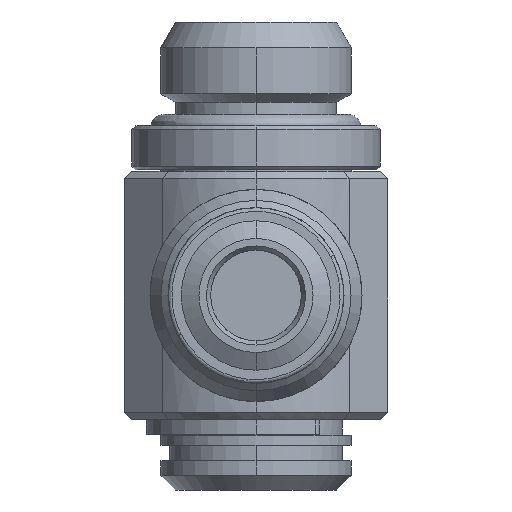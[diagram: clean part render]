
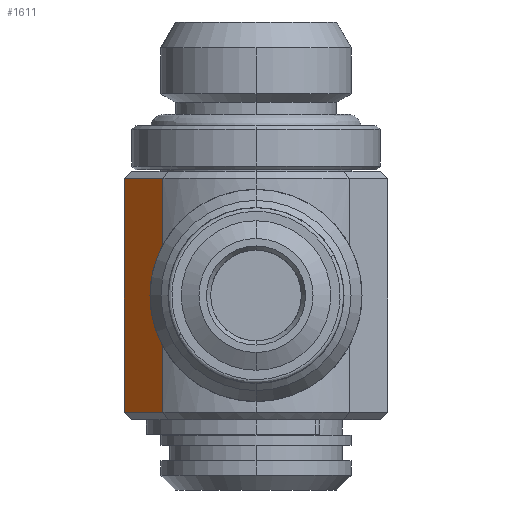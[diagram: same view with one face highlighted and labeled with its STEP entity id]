
A CAD part, left-side view. The second image highlights one B-rep face of the part: STEP entity #1611.
In plain terms, the highlighted planar face has unit normal (-0.707, 0.707, 0).
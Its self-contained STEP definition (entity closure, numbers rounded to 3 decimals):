
#139 = VECTOR ( 'NONE', #9013, 1000. ) ;
#194 = EDGE_LOOP ( 'NONE', ( #5748, #7143, #4658, #7251, #8228, #9205 ) ) ;
#854 = CARTESIAN_POINT ( 'NONE',  ( -5.178, 7.572, 8.24 ) ) ;
#917 = CARTESIAN_POINT ( 'NONE',  ( -6.386, 6.364, 1.5 ) ) ;
#1005 = DIRECTION ( 'NONE',  ( -0.707, -0.707, 0. ) ) ;
#1102 = CARTESIAN_POINT ( 'NONE',  ( -6.386, 6.364, 12.973 ) ) ;
#1494 = CARTESIAN_POINT ( 'NONE',  ( -5.068, 7.682, 17.5 ) ) ;
#1523 = CARTESIAN_POINT ( 'NONE',  ( -3.75, 9., 17.5 ) ) ;
#1611 = ADVANCED_FACE ( 'NONE', ( #1745 ), #1978, .F. ) ;
#1745 = FACE_OUTER_BOUND ( 'NONE', #194, .T. ) ;
#1760 = VERTEX_POINT ( 'NONE', #9190 ) ;
#1892 = DIRECTION ( 'NONE',  ( 0.707, 0.707, 0. ) ) ;
#1917 = DIRECTION ( 'NONE',  ( 0.707, -0.707, 0. ) ) ;
#1978 = PLANE ( 'NONE',  #3753 ) ;
#1993 = CARTESIAN_POINT ( 'NONE',  ( -6.386, 6.364, 1.5 ) ) ;
#2122 = CARTESIAN_POINT ( 'NONE',  ( -6.386, 6.364, 1.5 ) ) ;
#2163 = VERTEX_POINT ( 'NONE', #2122 ) ;
#2474 = VERTEX_POINT ( 'NONE', #8217 ) ;
#2716 = VECTOR ( 'NONE', #1005, 1000. ) ;
#2806 = EDGE_CURVE ( 'NONE', #2474, #6741, #9128, .T. ) ;
#3050 = EDGE_CURVE ( 'NONE', #3698, #2474, #5794, .T. ) ;
#3270 = CARTESIAN_POINT ( 'NONE',  ( -6.386, 6.364, 9.5 ) ) ;
#3304 = DIRECTION ( 'NONE',  ( 0., 0., -1. ) ) ;
#3549 = CARTESIAN_POINT ( 'NONE',  ( -6.386, 6.364, 6.027 ) ) ;
#3698 = VERTEX_POINT ( 'NONE', #1523 ) ;
#3733 = CARTESIAN_POINT ( 'NONE',  ( -6.386, 6.364, 3.777 ) ) ;
#3753 = AXIS2_PLACEMENT_3D ( 'NONE', #1993, #1917, #1892 ) ;
#3843 = VERTEX_POINT ( 'NONE', #3549 ) ;
#4061 = EDGE_CURVE ( 'NONE', #1760, #3698, #8244, .T. ) ;
#4526 = DIRECTION ( 'NONE',  ( 0., 0., 1. ) ) ;
#4658 = ORIENTED_EDGE ( 'NONE', *, *, #8455, .T. ) ;
#5111 = VECTOR ( 'NONE', #4526, 1000. ) ;
#5114 =( BOUNDED_CURVE ( )  B_SPLINE_CURVE ( 3, ( #6755, #8211, #854, #6021 ),
 .UNSPECIFIED., .F., .T. ) 
 B_SPLINE_CURVE_WITH_KNOTS ( ( 4, 4 ),
 ( 5.784, 6.783 ),
 .UNSPECIFIED. ) 
 CURVE ( )  GEOMETRIC_REPRESENTATION_ITEM ( )  RATIONAL_B_SPLINE_CURVE ( ( 1., 0.919, 0.919, 1. ) ) 
 REPRESENTATION_ITEM ( '' )  );
#5338 = LINE ( 'NONE', #3733, #5111 ) ;
#5625 = EDGE_CURVE ( 'NONE', #2163, #3843, #5338, .T. ) ;
#5748 = ORIENTED_EDGE ( 'NONE', *, *, #3050, .F. ) ;
#5794 = LINE ( 'NONE', #1494, #139 ) ;
#6021 = CARTESIAN_POINT ( 'NONE',  ( -6.386, 6.364, 6.027 ) ) ;
#6576 = DIRECTION ( 'NONE',  ( 0., 0., 1. ) ) ;
#6741 = VERTEX_POINT ( 'NONE', #1102 ) ;
#6755 = CARTESIAN_POINT ( 'NONE',  ( -6.386, 6.364, 12.973 ) ) ;
#7143 = ORIENTED_EDGE ( 'NONE', *, *, #4061, .F. ) ;
#7184 = VECTOR ( 'NONE', #3304, 1000. ) ;
#7251 = ORIENTED_EDGE ( 'NONE', *, *, #5625, .T. ) ;
#7772 = VECTOR ( 'NONE', #6576, 1000. ) ;
#8211 = CARTESIAN_POINT ( 'NONE',  ( -5.178, 7.572, 10.76 ) ) ;
#8217 = CARTESIAN_POINT ( 'NONE',  ( -6.386, 6.364, 17.5 ) ) ;
#8228 = ORIENTED_EDGE ( 'NONE', *, *, #9438, .F. ) ;
#8244 = LINE ( 'NONE', #8613, #7772 ) ;
#8393 = LINE ( 'NONE', #917, #2716 ) ;
#8455 = EDGE_CURVE ( 'NONE', #1760, #2163, #8393, .T. ) ;
#8613 = CARTESIAN_POINT ( 'NONE',  ( -3.75, 9., 9.5 ) ) ;
#9013 = DIRECTION ( 'NONE',  ( -0.707, -0.707, 0. ) ) ;
#9128 = LINE ( 'NONE', #3270, #7184 ) ;
#9190 = CARTESIAN_POINT ( 'NONE',  ( -3.75, 9., 1.5 ) ) ;
#9205 = ORIENTED_EDGE ( 'NONE', *, *, #2806, .F. ) ;
#9438 = EDGE_CURVE ( 'NONE', #6741, #3843, #5114, .T. ) ;
